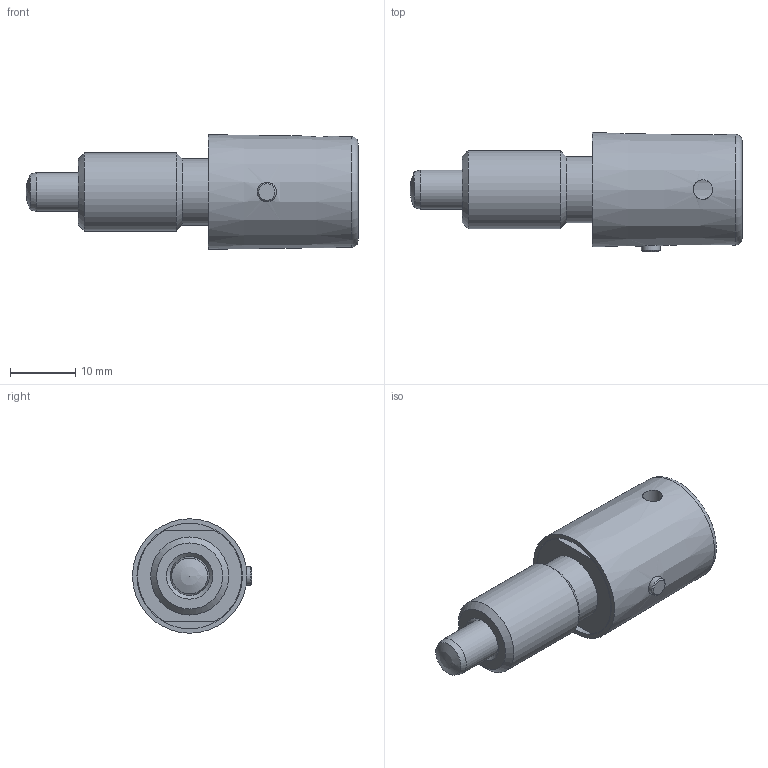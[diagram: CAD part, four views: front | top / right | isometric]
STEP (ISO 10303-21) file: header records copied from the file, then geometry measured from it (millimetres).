
FILE_DESCRIPTION( ( 'STEP AP203' ), '1' );
FILE_NAME( 'C:/Temp/Ganter_Step_05_03_2020/data/3_1/gn816/gn_816_b/Locking plunger GN 816-6-M12x1,5-B (deactivated).stp', '2020-03-12T08:55:54', ( 'License CC BY-ND 4.0' ), ( 'CADENAS' ), ' ', 'PARTsolutions', ' ' );
FILE_SCHEMA( ( 'CONFIG_CONTROL_DESIGN' ) );
Length unit declared in the file: millimetre
Products named in the file (3): Locking plunger GN 816-6-M12x1,5-B (deactivated); _GN 816-6-M12x1,5-B(0)-b2; _GN 816-6-M12x1,5-Bb1
Assembly tree (2 placements, depth 2):
  Locking plunger GN 816-6-M12x1,5-B (deactivated)
    _GN 816-6-M12x1,5-B(0)-b2
    _GN 816-6-M12x1,5-Bb1
Bounding box: 51 x 18.3 x 17.59 mm (x, y, z)
Volume: 6129.9 mm3; surface area: 4854.8 mm2
Topology: 2 solids, 2 shells, 38 faces, 73 edges, 46 vertices
Faces by surface type: cylinder 13, plane 13, cone 9, torus 2, sphere 1
Full cylindrical faces by diameter (mm): 2.9 x2, 3 x2, 5.9 x1, 6 x2, 10.2 x1, 11.1 x1, 12 x1, 16.2 x1
Entity records: 1226 total; most frequent: CARTESIAN_POINT 430, DIRECTION 154, ORIENTED_EDGE 92, EDGE_LOOP 74, AXIS2_PLACEMENT_3D 73, FACE_OUTER_BOUND 51, EDGE_CURVE 46, VERTEX_POINT 43
